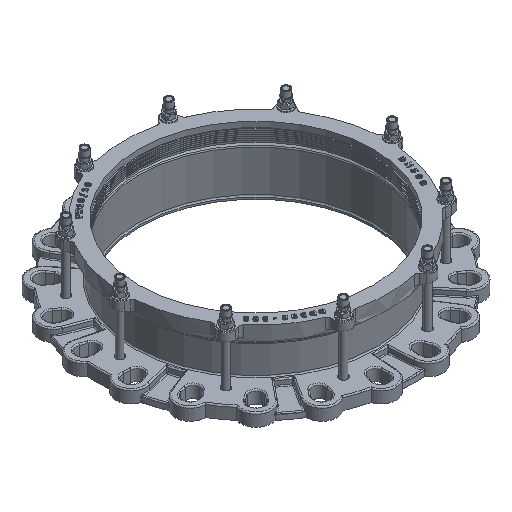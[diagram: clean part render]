
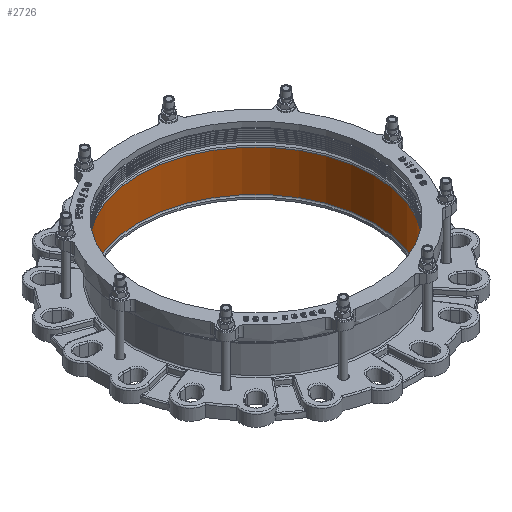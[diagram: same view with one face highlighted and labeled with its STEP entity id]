
A CAD part, isometric view. The second image highlights one B-rep face of the part: STEP entity #2726.
In plain terms, the highlighted cylindrical face has radius 254 mm (diameter 508 mm), a full revolution.
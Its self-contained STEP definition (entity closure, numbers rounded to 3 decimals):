
#2726=ADVANCED_FACE('',(#19897,#19899),#19901,.F.);
#19897=FACE_OUTER_BOUND('',#19898,.T.);
#19898=EDGE_LOOP('',(#28736));
#19899=FACE_OUTER_BOUND('',#19900,.T.);
#19900=EDGE_LOOP('',(#28737));
#19901=CYLINDRICAL_SURFACE('',#19902,254.);
#19902=AXIS2_PLACEMENT_3D('',#19903,#19904,#19905);
#19903=CARTESIAN_POINT('',(0.,0.,4.));
#19904=DIRECTION('',(0.,0.,1.));
#19905=DIRECTION('',(-1.,0.,0.));
#28736=ORIENTED_EDGE('',*,*,#35502,.F.);
#28737=ORIENTED_EDGE('',*,*,#35500,.T.);
#35500=EDGE_CURVE('',#40651,#40651,#40652,.F.);
#35502=EDGE_CURVE('',#40655,#40655,#40656,.T.);
#40651=VERTEX_POINT('',#60593);
#40652=CIRCLE('',#60594,254.);
#40655=VERTEX_POINT('',#60603);
#40656=CIRCLE('',#60604,254.);
#60593=CARTESIAN_POINT('',(0.,254.,7.464));
#60594=AXIS2_PLACEMENT_3D('',#60595,#60596,#60597);
#60595=CARTESIAN_POINT('',(0.,0.,7.464));
#60596=DIRECTION('',(0.,0.,1.));
#60597=DIRECTION('',(0.,1.,0.));
#60603=CARTESIAN_POINT('',(0.,254.,96.));
#60604=AXIS2_PLACEMENT_3D('',#60605,#60606,#60607);
#60605=CARTESIAN_POINT('',(0.,0.,96.));
#60606=DIRECTION('',(0.,0.,-1.));
#60607=DIRECTION('',(0.,1.,0.));
